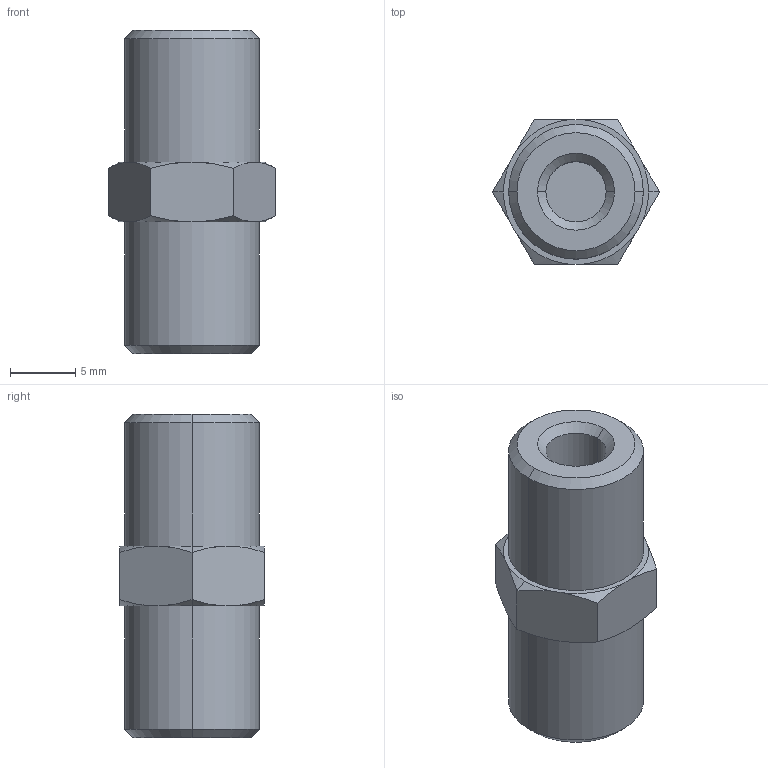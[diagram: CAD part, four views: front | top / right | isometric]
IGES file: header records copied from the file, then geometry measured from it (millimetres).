
Global section: file name: C:\Documents and Settings\Administrator\My Documents\PersonalProject\hexnipple.igs; native system: AutoDesk Inventor R2.0 ; preprocessor: AutoDesk Inventor Iges Exporter R2.0; author: No Author specified; organization: No Organization specified; date: 20020115.182947; units: inch
Bounding box: 12.8 x 11.08 x 24.78 mm (x, y, z)
Surface area: 1292.4 mm2 (no closed solid volume)
Topology: 0 solids, 0 shells, 44 faces, 204 edges, 204 vertices
Faces by surface type: revolution 32, bspline 12
